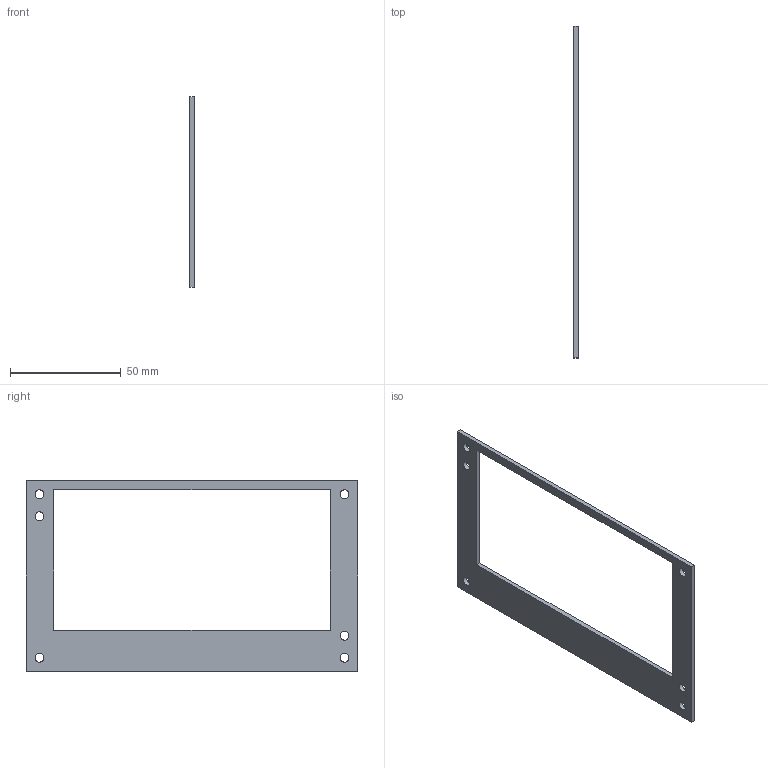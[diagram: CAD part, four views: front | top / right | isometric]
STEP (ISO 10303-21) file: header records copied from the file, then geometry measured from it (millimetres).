
FILE_DESCRIPTION(('FreeCAD Model'),'2;1');
FILE_NAME( '/home/bluelambda/Documents/Arcade/meca/sfx_power_bracket.step', '2016-03-24T08:16:21',('Author'),(''), 'Open CASCADE STEP processor 6.9','FreeCAD','Unknown');
FILE_SCHEMA(('AUTOMOTIVE_DESIGN { 1 0 10303 214 1 1 1 1 }'));
Length unit declared in the file: millimetre
Products named in the file (1): sfx_power_bracket_solid
Bounding box: 2 x 150 x 86 mm (x, y, z)
Volume: 9774.2 mm3; surface area: 11623 mm2
Topology: 1 solids, 1 shells, 16 faces, 42 edges, 28 vertices
Faces by surface type: plane 10, cylinder 6
Full cylindrical faces by diameter (mm): 4 x6
Entity records: 1129 total; most frequent: CARTESIAN_POINT 243, DIRECTION 160, LINE 102, VECTOR 102, ORIENTED_EDGE 84, PCURVE 84, DEFINITIONAL_REPRESENTATION 84, EDGE_CURVE 42
